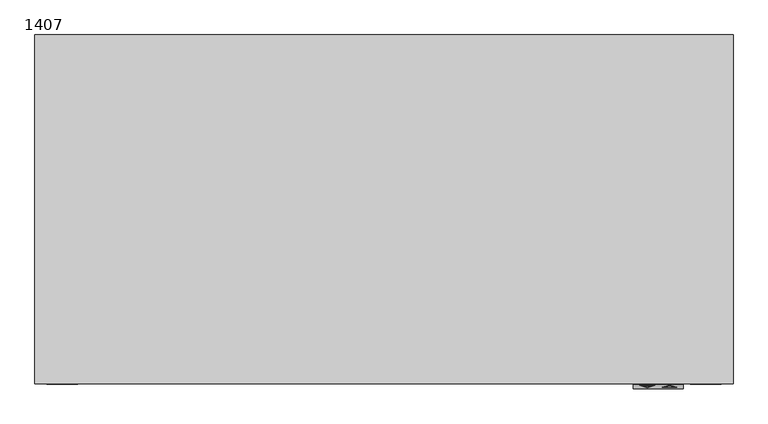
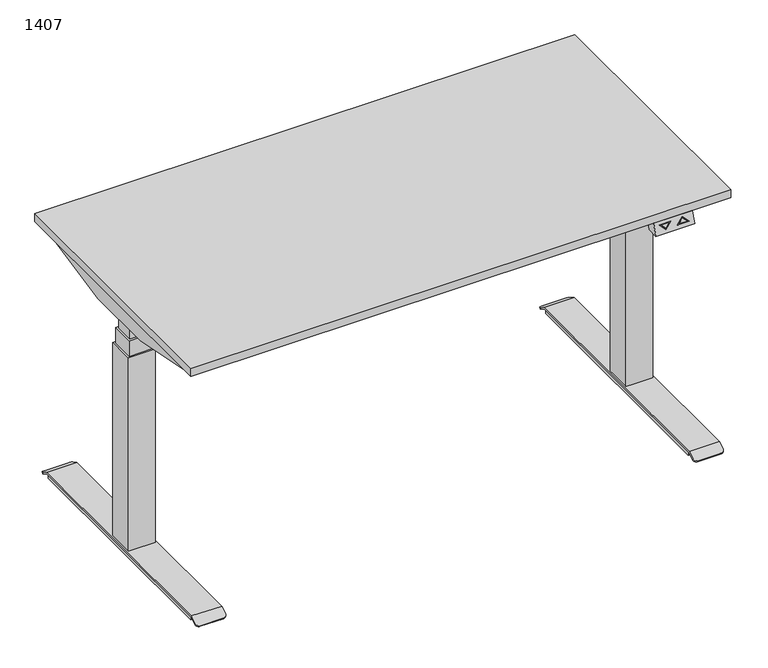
"""IFC4 building model written with IfcOpenShell, lengths in millimetres: furniture geometry, PINTA EQC : 1407."""

from ifc_helpers import new_model, si_unit, point, frame, frame_2d, origin, origin_with_axes, place, context, project, spatial, polyline, circle_curve, trimmed, segment, composite_curve, outline, extrude, faceted_brep, source, transform, mapped, element, save
from ifc_brep_helpers import plane_surface, cylinder_surface, advanced_brep


def furniture_1407_2bd7f04e(model_context):
    return source(origin(), model_context, "Body", "SolidModel", [
        faceted_brep([(500.0, -710.0, 668.0), (500.0, -680.0, 668.0), (600.0, -680.0, 668.0), (600.0, -710.0, 668.0), (500.0, -700.0, 698.0), (600.0, -700.0, 698.0), (600.0, -670.0, 698.0), (500.0, -670.0, 698.0), (512.5, -702.6491106, 690.0526681), (542.5, -702.6491106, 690.0526681), (527.5, -707.3925271, 675.8224186), (587.5, -706.9174824, 677.2475529), (557.5, -706.9174824, 677.2475529), (572.5, -702.1740659, 691.4778023), (527.5, -706.4980999, 678.5057002), (537.6715729, -703.2815662, 688.1553015), (517.3284271, -703.2815662, 688.1553015), (582.6715729, -706.2850268, 679.1449195), (572.5, -703.0684931, 688.7945208), (562.3284271, -706.2850268, 679.1449195), (542.5, -701.7004273, 689.7364403), (512.5, -701.7004273, 689.7364403), (527.5, -706.4438438, 675.5061908), (537.6715729, -702.3328829, 687.8390737), (527.5, -705.5494166, 678.1894724), (517.3284271, -702.3328829, 687.8390737), (557.5, -705.9687991, 676.9313251), (587.5, -705.9687991, 676.9313251), (572.5, -701.2253826, 691.1615746), (572.5, -702.1198098, 688.478293), (582.6715729, -705.3363436, 678.8286917), (562.3284271, -705.3363436, 678.8286917)], [[[0, 1, 2, 3]], [[4, 5, 6, 7]], [[1, 0, 4, 7]], [[3, 2, 6, 5]], [[0, 3, 5, 4], [8, 9, 10], [11, 12, 13]], [[14, 15, 16]], [[17, 18, 19]], [[2, 1, 7, 6]], [[20, 21, 22], [23, 24, 25]], [[26, 27, 28], [29, 30, 31]], [[21, 20, 9, 8]], [[22, 21, 8, 10]], [[20, 22, 10, 9]], [[27, 26, 12, 11]], [[28, 27, 11, 13]], [[26, 28, 13, 12]], [[24, 23, 15, 14]], [[25, 24, 14, 16]], [[23, 25, 16, 15]], [[30, 29, 18, 17]], [[31, 30, 17, 19]], [[29, 31, 19, 18]]]),
        extrude(outline(polyline([(-680.0, -269.7732113), (680.0, -269.7733158), (680.0, -289.7733158), (-680.0, -289.7732113), (-680.0, -269.7732113)])), frame((0.0, 0.0, 658.0), z_axis=(0.0, 0.0, 1.0), x_axis=(1.0, 0.0, 0.0)), (0.0, 0.0, 1.0), 40.0),
        extrude(outline(polyline([(-680.0, -409.7732114), (680.0, -409.7733158), (680.0, -429.7733158), (-680.0, -429.7732114), (-680.0, -409.7732114)])), frame((0.0, 0.0, 658.0), z_axis=(0.0, 0.0, 1.0), x_axis=(1.0, 0.0, 0.0)), (0.0, 0.0, 1.0), 40.0),
        extrude(outline(polyline([(-700.0, -700.0), (-700.0, 0.0), (700.0, 0.0), (700.0, -700.0), (-700.0, -700.0)])), frame((0.0, 0.0, 698.0), z_axis=(0.0, 0.0, 1.0), x_axis=(1.0, 0.0, 0.0)), (0.0, 0.0, 1.0), 22.0),
        advanced_brep(
        [(606.9772339, -670.0, 6.0), (606.9772339, -670.0, 16.0), (606.9772339, -30.0, 16.0), (606.9772339, -30.0, 6.0), (683.0227661, -30.0, 16.0), (683.0227661, -30.0, 6.0), (683.0227661, -670.0, 16.0), (683.0227661, -670.0, 6.0), (606.0, -25.0, 20.0), (606.0, -6.9800481, 9.908827), (606.0, -8.9344616, 6.4188029), (606.0, -26.0437422, 16.0), (606.0, -673.9562578, 16.0), (606.0, -691.0655384, 6.4188029), (606.0, -693.0199519, 9.908827), (606.0, -675.0, 20.0), (684.0, -26.0437422, 16.0), (684.0, -8.9344616, 6.4188029), (684.0, -6.9800481, 9.908827), (684.0, -25.0, 20.0), (684.0, -675.0, 20.0), (684.0, -693.0199519, 9.908827), (684.0, -691.0655384, 6.4188029), (684.0, -673.9562578, 16.0), (614.0, -700.0, 6.0), (676.0, -700.0, 6.0), (614.0, -698.0455865, 2.5099759), (676.0, -698.0455865, 2.5099759), (614.0, -1.9544135, 2.5099759), (676.0, -1.9544135, 2.5099759), (614.0, 0.0, 6.0), (676.0, 0.0, 6.0)],
        [
            (0, 1),
            (1, 2),
            (2, 3),
            (3, 0),
            (2, 4),
            (4, 5),
            (5, 3),
            (4, 6),
            (6, 7),
            (7, 5),
            (6, 1),
            (0, 7),
            (8, 9),
            (9, 10),
            (10, 11),
            (11, 12),
            (12, 13),
            (13, 14),
            (14, 15),
            (15, 8),
            (16, 17),
            (17, 18),
            (18, 19),
            (19, 20),
            (20, 21),
            (21, 22),
            (22, 23),
            (23, 16),
            (15, 20),
            (19, 8),
            (11, 16),
            (23, 12),
            (14, 24, circle_curve(frame((614.0, -693.0199519, 9.908827), z_axis=(0.0, -0.4886033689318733, 0.8725060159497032), x_axis=(0.0, 0.8725060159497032, 0.4886033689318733)), 8.0)),
            (24, 25),
            (25, 21, circle_curve(frame((676.0, -693.0199519, 9.908827), z_axis=(0.0, -0.4886033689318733, 0.8725060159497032), x_axis=(0.0, 0.8725060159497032, 0.4886033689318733)), 8.0)),
            (24, 26),
            (26, 27),
            (27, 25),
            (22, 27, circle_curve(frame((676.0, -691.0655384, 6.4188029), z_axis=(0.0, 0.4886033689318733, -0.8725060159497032), x_axis=(0.0, 0.8725060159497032, 0.4886033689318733)), 8.0)),
            (26, 13, circle_curve(frame((614.0, -691.0655384, 6.4188029), z_axis=(0.0, 0.4886033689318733, -0.8725060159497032), x_axis=(0.0, 0.8725060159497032, 0.4886033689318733)), 8.0)),
            (10, 28, circle_curve(frame((614.0, -8.9344616, 6.4188029), z_axis=(0.0, -0.4886033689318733, -0.8725060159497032), x_axis=(0.0, -0.8725060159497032, 0.4886033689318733)), 8.0)),
            (28, 29),
            (29, 17, circle_curve(frame((676.0, -8.9344616, 6.4188029), z_axis=(0.0, -0.4886033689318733, -0.8725060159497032), x_axis=(0.0, -0.8725060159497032, 0.4886033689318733)), 8.0)),
            (28, 30),
            (30, 31),
            (31, 29),
            (18, 31, circle_curve(frame((676.0, -6.9800481, 9.908827), z_axis=(0.0, 0.4886033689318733, 0.8725060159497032), x_axis=(0.0, -0.8725060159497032, 0.4886033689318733)), 8.0)),
            (30, 9, circle_curve(frame((614.0, -6.9800481, 9.908827), z_axis=(0.0, 0.4886033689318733, 0.8725060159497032), x_axis=(0.0, -0.8725060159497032, 0.4886033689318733)), 8.0)),
        ],
        [
            plane_surface(frame((606.9772339, -670.0, 16.0), z_axis=(-1.0, 0.0, 0.0), x_axis=(0.0, 0.0, -1.0))),
            plane_surface(frame((606.9772339, -30.0, 16.0), z_axis=(0.0, 1.0, 0.0), x_axis=(0.0, 0.0, -1.0))),
            plane_surface(frame((683.0227661, -30.0, 16.0), z_axis=(1.0, 0.0, 0.0), x_axis=(0.0, 0.0, -1.0))),
            plane_surface(frame((683.0227661, -670.0, 16.0), z_axis=(0.0, -1.0, 0.0), x_axis=(0.0, 0.0, -1.0))),
            plane_surface(frame((606.9772339, -673.4188232, 6.0), z_axis=(0.0, 0.0, -1.0), x_axis=(0.0, -1.0, 0.0))),
            plane_surface(frame((606.0, -350.0, 20.0), z_axis=(-1.0, 0.0, 0.0), x_axis=(0.0, -1.0, 0.0))),
            plane_surface(frame((684.0, -350.0, 20.0), z_axis=(1.0, 0.0, 0.0), x_axis=(0.0, 1.0, 0.0))),
            plane_surface(frame((606.0, -25.0, 20.0), z_axis=(0.0, 0.0, 1.0), x_axis=(1.0, 0.0, 0.0))),
            plane_surface(frame((606.0, -673.9562578, 16.0), z_axis=(0.0, 0.0, -1.0), x_axis=(1.0, 0.0, 0.0))),
            plane_surface(frame((606.0, -675.0, 20.0), z_axis=(0.0, -0.4886033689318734, 0.8725060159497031), x_axis=(1.0, 0.0, 0.0))),
            plane_surface(frame((606.0, -700.0, 6.0), z_axis=(0.0, -0.872506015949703, -0.4886033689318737), x_axis=(1.0, 0.0, 0.0))),
            plane_surface(frame((606.0, -698.0455865, 2.5099759), z_axis=(0.0, 0.4886033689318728, -0.8725060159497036), x_axis=(1.0, 0.0, 0.0))),
            plane_surface(frame((606.0, -26.0437422, 16.0), z_axis=(0.0, -0.4886033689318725, -0.8725060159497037), x_axis=(1.0, 0.0, 0.0))),
            plane_surface(frame((606.0, -1.9544135, 2.5099759), z_axis=(0.0, 0.8725060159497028, -0.48860336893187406), x_axis=(1.0, 0.0, 0.0))),
            plane_surface(frame((606.0, 0.0, 6.0), z_axis=(0.0, 0.48860336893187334, 0.8725060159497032), x_axis=(1.0, 0.0, 0.0))),
            cylinder_surface(frame((614.0, -693.0199519, 9.908827), z_axis=(0.0, -0.4886033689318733, 0.8725060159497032), x_axis=(0.0, 0.8725060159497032, 0.4886033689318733)), 8.0),
            cylinder_surface(frame((676.0, -693.0199519, 9.908827), z_axis=(0.0, -0.4886033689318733, 0.8725060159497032), x_axis=(0.0, 0.8725060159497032, 0.4886033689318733)), 8.0),
            cylinder_surface(frame((614.0, -6.9800481, 9.908827), z_axis=(0.0, 0.4886033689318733, 0.8725060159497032), x_axis=(0.0, -0.8725060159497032, 0.4886033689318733)), 8.0),
            cylinder_surface(frame((676.0, -6.9800481, 9.908827), z_axis=(0.0, 0.4886033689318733, 0.8725060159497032), x_axis=(0.0, -0.8725060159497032, 0.4886033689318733)), 8.0),
        ],
        [
            (0, [[1, 2, 3, 4]]),
            (1, [[-3, 5, 6, 7]]),
            (2, [[-6, 8, 9, 10]]),
            (3, [[-9, 11, -1, 12]]),
            (4, [[-4, -7, -10, -12]]),
            (5, [[13, 14, 15, 16, 17, 18, 19, 20]]),
            (6, [[21, 22, 23, 24, 25, 26, 27, 28]]),
            (7, [[29, -24, 30, -20]]),
            (8, [[31, -28, 32, -16], [-11, -8, -5, -2]]),
            (9, [[-19, 33, 34, 35, -25, -29]]),
            (10, [[36, 37, 38, -34]]),
            (11, [[-27, 39, -37, 40, -17, -32]]),
            (12, [[-15, 41, 42, 43, -21, -31]]),
            (13, [[44, 45, 46, -42]]),
            (14, [[-23, 47, -45, 48, -13, -30]]),
            (15, [[-40, -36, -33, -18]]),
            (16, [[-35, -38, -39, -26]]),
            (17, [[-48, -44, -41, -14]]),
            (18, [[-43, -46, -47, -22]]),
        ],
    ),
        faceted_brep([(479.4551307, -410.0, 698.0), (662.9996948, -410.0, 698.0), (662.9996948, -650.0, 698.0), (679.4551307, -650.0, 698.0), (683.0, -650.0, 698.0), (683.0, -50.0, 698.0), (679.4551307, -50.0, 698.0), (662.9996948, -50.0, 698.0), (662.9996948, -290.0, 698.0), (479.4551307, -290.0, 698.0), (479.4551307, -410.0, 635.2327881), (479.4551307, -290.0, 635.2327881), (679.4551307, -290.0, 635.2327881), (679.4551307, -253.8252348, 635.2327881), (683.0, -253.8252348, 635.2327881), (683.0, -446.1747652, 635.2327881), (679.4551307, -446.1747652, 635.2327881), (679.4551307, -410.0, 635.2327881), (662.9996948, -290.0, 694.9093018), (679.4551307, -290.0, 694.9093018), (679.4551307, -410.0, 694.9093018), (662.9996948, -410.0, 694.9093018), (679.4551307, -650.0, 694.9093018), (662.9996948, -650.0, 694.9093018), (679.4551307, -50.0, 694.9093018), (662.9996948, -50.0, 694.9093018), (679.4551307, -51.1249222, 694.9093018), (679.4551307, -648.8750778, 694.9093018), (679.4551307, -58.5505036, 674.5076845), (679.4551307, -641.4494964, 674.5076845), (683.0, -58.5505036, 674.5076845), (683.0, -641.4494964, 674.5076845)], [[[0, 1, 2, 3, 4, 5, 6, 7, 8, 9]], [[10, 11, 12, 13, 14, 15, 16, 17]], [[9, 11, 10, 0]], [[11, 9, 8, 18, 19, 12]], [[17, 20, 21, 1, 0, 10]], [[22, 3, 2, 23]], [[24, 25, 7, 6]], [[24, 26, 19, 18, 25]], [[23, 21, 20, 27, 22]], [[2, 1, 21, 23]], [[25, 18, 8, 7]], [[13, 12, 19, 26, 28]], [[29, 27, 20, 17, 16]], [[15, 14, 30, 5, 4, 31]], [[16, 15, 31, 29]], [[22, 27, 3]], [[6, 26, 24]], [[4, 3, 27, 29, 31]], [[28, 30, 14, 13]], [[30, 28, 26, 6, 5]]]),
        extrude(outline(composite_curve([segment(trimmed(circle_curve(frame_2d((645.0, -655.0)), 25.0), [point((670.0, -655.0))], [point((620.0, -655.0))], False, "CARTESIAN"), True, "CONTINUOUS"), segment(trimmed(circle_curve(frame_2d((645.0, -655.0)), 25.0), [point((620.0, -655.0))], [point((670.0, -655.0))], False, "CARTESIAN"), True, "CONTINUOUS")], self_intersect=False)), origin_with_axes(), (0.0, 0.0, 1.0), 6.0),
        extrude(outline(composite_curve([segment(trimmed(circle_curve(frame_2d((645.0, -45.0)), 25.0), [point((670.0, -45.0))], [point((620.0, -45.0))], False, "CARTESIAN"), True, "CONTINUOUS"), segment(trimmed(circle_curve(frame_2d((645.0, -45.0)), 25.0), [point((620.0, -45.0))], [point((670.0, -45.0))], False, "CARTESIAN"), True, "CONTINUOUS")], self_intersect=False)), origin_with_axes(), (0.0, 0.0, 1.0), 6.0),
        faceted_brep([(610.0, -315.0, 550.0), (610.0, -384.9621325, 550.0), (680.0, -384.9621325, 550.0), (680.0, -315.0, 550.0), (675.0, -320.0, 550.0), (675.0, -379.9621325, 550.0), (615.0, -379.9621325, 550.0), (615.0, -320.0, 550.0), (610.0, -315.0, 20.0), (680.0, -315.0, 20.0), (680.0, -384.9621325, 20.0), (610.0, -384.9621325, 20.0), (615.0, -320.0, 592.616394), (615.0, -379.9621325, 592.616394), (675.0, -379.9621325, 592.616394), (675.0, -320.0, 592.616394), (670.0, -325.0, 592.616394), (670.0, -374.9621325, 592.616394), (620.0, -374.9621325, 592.616394), (620.0, -325.0, 592.616394), (620.0, -325.0, 635.2327881), (620.0, -374.9621325, 635.2327881), (670.0, -374.9621325, 635.2327881), (670.0, -325.0, 635.2327881)], [[[0, 1, 2, 3], [4, 5, 6, 7]], [[8, 9, 10, 11]], [[3, 9, 8, 0]], [[2, 10, 9, 3]], [[1, 11, 10, 2]], [[0, 8, 11, 1]], [[12, 13, 14, 15], [16, 17, 18, 19]], [[15, 4, 7, 12]], [[14, 5, 4, 15]], [[13, 6, 5, 14]], [[12, 7, 6, 13]], [[20, 21, 22, 23]], [[23, 16, 19, 20]], [[22, 17, 16, 23]], [[21, 18, 17, 22]], [[20, 19, 18, 21]]]),
        advanced_brep(
        [(-606.9772339, -670.0, 6.0), (-606.9772339, -30.0, 6.0), (-606.9772339, -30.0, 16.0), (-606.9772339, -670.0, 16.0), (-683.0227661, -30.0, 6.0), (-683.0227661, -30.0, 16.0), (-683.0227661, -670.0, 6.0), (-683.0227661, -670.0, 16.0), (-606.0, -25.0, 20.0), (-606.0, -675.0, 20.0), (-606.0, -693.0199519, 9.908827), (-606.0, -691.0655384, 6.4188029), (-606.0, -673.9562578, 16.0), (-606.0, -26.0437422, 16.0), (-606.0, -8.9344616, 6.4188029), (-606.0, -6.9800481, 9.908827), (-684.0, -26.0437422, 16.0), (-684.0, -673.9562578, 16.0), (-684.0, -691.0655384, 6.4188029), (-684.0, -693.0199519, 9.908827), (-684.0, -675.0, 20.0), (-684.0, -25.0, 20.0), (-684.0, -6.9800481, 9.908827), (-684.0, -8.9344616, 6.4188029), (-676.0, -700.0, 6.0), (-614.0, -700.0, 6.0), (-676.0, -698.0455865, 2.5099759), (-614.0, -698.0455865, 2.5099759), (-676.0, -1.9544135, 2.5099759), (-614.0, -1.9544135, 2.5099759), (-676.0, 0.0, 6.0), (-614.0, 0.0, 6.0)],
        [
            (0, 1),
            (1, 2),
            (2, 3),
            (3, 0),
            (1, 4),
            (4, 5),
            (5, 2),
            (4, 6),
            (6, 7),
            (7, 5),
            (6, 0),
            (3, 7),
            (8, 9),
            (9, 10),
            (10, 11),
            (11, 12),
            (12, 13),
            (13, 14),
            (14, 15),
            (15, 8),
            (16, 17),
            (17, 18),
            (18, 19),
            (19, 20),
            (20, 21),
            (21, 22),
            (22, 23),
            (23, 16),
            (8, 21),
            (20, 9),
            (12, 17),
            (16, 13),
            (19, 24, circle_curve(frame((-676.0, -693.0199519, 9.908827), z_axis=(0.0, -0.4886033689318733, 0.8725060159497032), x_axis=(0.0, 0.8725060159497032, 0.4886033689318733)), 8.0)),
            (24, 25),
            (25, 10, circle_curve(frame((-614.0, -693.0199519, 9.908827), z_axis=(0.0, -0.4886033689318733, 0.8725060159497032), x_axis=(0.0, 0.8725060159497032, 0.4886033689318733)), 8.0)),
            (24, 26),
            (26, 27),
            (27, 25),
            (11, 27, circle_curve(frame((-614.0, -691.0655384, 6.4188029), z_axis=(0.0, 0.4886033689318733, -0.8725060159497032), x_axis=(0.0, 0.8725060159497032, 0.4886033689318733)), 8.0)),
            (26, 18, circle_curve(frame((-676.0, -691.0655384, 6.4188029), z_axis=(0.0, 0.4886033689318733, -0.8725060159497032), x_axis=(0.0, 0.8725060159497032, 0.4886033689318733)), 8.0)),
            (23, 28, circle_curve(frame((-676.0, -8.9344616, 6.4188029), z_axis=(0.0, -0.4886033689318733, -0.8725060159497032), x_axis=(0.0, -0.8725060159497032, 0.4886033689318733)), 8.0)),
            (28, 29),
            (29, 14, circle_curve(frame((-614.0, -8.9344616, 6.4188029), z_axis=(0.0, -0.4886033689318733, -0.8725060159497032), x_axis=(0.0, -0.8725060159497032, 0.4886033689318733)), 8.0)),
            (28, 30),
            (30, 31),
            (31, 29),
            (15, 31, circle_curve(frame((-614.0, -6.9800481, 9.908827), z_axis=(0.0, 0.4886033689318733, 0.8725060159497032), x_axis=(0.0, -0.8725060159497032, 0.4886033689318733)), 8.0)),
            (30, 22, circle_curve(frame((-676.0, -6.9800481, 9.908827), z_axis=(0.0, 0.4886033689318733, 0.8725060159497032), x_axis=(0.0, -0.8725060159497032, 0.4886033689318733)), 8.0)),
        ],
        [
            plane_surface(frame((-606.9772339, -670.0, 16.0), z_axis=(1.0, 0.0, 0.0), x_axis=(0.0, 0.0, -1.0))),
            plane_surface(frame((-606.9772339, -30.0, 16.0), z_axis=(0.0, 1.0, 0.0), x_axis=(0.0, 0.0, -1.0))),
            plane_surface(frame((-683.0227661, -30.0, 16.0), z_axis=(-1.0, 0.0, 0.0), x_axis=(0.0, 0.0, -1.0))),
            plane_surface(frame((-683.0227661, -670.0, 16.0), z_axis=(0.0, -1.0, 0.0), x_axis=(0.0, 0.0, -1.0))),
            plane_surface(frame((-606.9772339, -673.4188232, 6.0), z_axis=(0.0, 0.0, -1.0), x_axis=(0.0, -1.0, 0.0))),
            plane_surface(frame((-606.0, -350.0, 20.0), z_axis=(1.0, 0.0, 0.0), x_axis=(0.0, -1.0, 0.0))),
            plane_surface(frame((-684.0, -350.0, 20.0), z_axis=(-1.0, 0.0, 0.0), x_axis=(0.0, 1.0, 0.0))),
            plane_surface(frame((-606.0, -25.0, 20.0), z_axis=(0.0, 0.0, 1.0), x_axis=(-1.0, 0.0, 0.0))),
            plane_surface(frame((-606.0, -673.9562578, 16.0), z_axis=(0.0, 0.0, -1.0), x_axis=(-1.0, 0.0, 0.0))),
            plane_surface(frame((-606.0, -675.0, 20.0), z_axis=(0.0, -0.4886033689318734, 0.8725060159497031), x_axis=(-1.0, 0.0, 0.0))),
            plane_surface(frame((-606.0, -700.0, 6.0), z_axis=(0.0, -0.872506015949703, -0.4886033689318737), x_axis=(-1.0, 0.0, 0.0))),
            plane_surface(frame((-606.0, -698.0455865, 2.5099759), z_axis=(0.0, 0.4886033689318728, -0.8725060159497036), x_axis=(-1.0, 0.0, 0.0))),
            plane_surface(frame((-606.0, -26.0437422, 16.0), z_axis=(0.0, -0.4886033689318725, -0.8725060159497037), x_axis=(-1.0, 0.0, 0.0))),
            plane_surface(frame((-606.0, -1.9544135, 2.5099759), z_axis=(0.0, 0.8725060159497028, -0.48860336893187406), x_axis=(-1.0, 0.0, 0.0))),
            plane_surface(frame((-606.0, 0.0, 6.0), z_axis=(0.0, 0.48860336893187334, 0.8725060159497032), x_axis=(-1.0, 0.0, 0.0))),
            cylinder_surface(frame((-614.0, -693.0199519, 9.908827), z_axis=(0.0, -0.4886033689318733, 0.8725060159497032), x_axis=(0.0, 0.8725060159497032, 0.4886033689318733)), 8.0),
            cylinder_surface(frame((-676.0, -693.0199519, 9.908827), z_axis=(0.0, -0.4886033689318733, 0.8725060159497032), x_axis=(0.0, 0.8725060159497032, 0.4886033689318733)), 8.0),
            cylinder_surface(frame((-614.0, -6.9800481, 9.908827), z_axis=(0.0, 0.4886033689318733, 0.8725060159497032), x_axis=(0.0, -0.8725060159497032, 0.4886033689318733)), 8.0),
            cylinder_surface(frame((-676.0, -6.9800481, 9.908827), z_axis=(0.0, 0.4886033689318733, 0.8725060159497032), x_axis=(0.0, -0.8725060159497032, 0.4886033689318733)), 8.0),
        ],
        [
            (0, [[1, 2, 3, 4]]),
            (1, [[5, 6, 7, -2]]),
            (2, [[8, 9, 10, -6]]),
            (3, [[11, -4, 12, -9]]),
            (4, [[-11, -8, -5, -1]]),
            (5, [[13, 14, 15, 16, 17, 18, 19, 20]]),
            (6, [[21, 22, 23, 24, 25, 26, 27, 28]]),
            (7, [[-13, 29, -25, 30]]),
            (8, [[-17, 31, -21, 32], [-3, -7, -10, -12]]),
            (9, [[-30, -24, 33, 34, 35, -14]]),
            (10, [[-34, 36, 37, 38]]),
            (11, [[-31, -16, 39, -37, 40, -22]]),
            (12, [[-32, -28, 41, 42, 43, -18]]),
            (13, [[-42, 44, 45, 46]]),
            (14, [[-29, -20, 47, -45, 48, -26]]),
            (15, [[-15, -35, -38, -39]]),
            (16, [[-23, -40, -36, -33]]),
            (17, [[-19, -43, -46, -47]]),
            (18, [[-27, -48, -44, -41]]),
        ],
    ),
        faceted_brep([(-479.4551307, -410.0, 698.0), (-479.4551307, -290.0, 698.0), (-662.9996948, -290.0, 698.0), (-662.9996948, -50.0, 698.0), (-679.4551307, -50.0, 698.0), (-683.0, -50.0, 698.0), (-683.0, -650.0, 698.0), (-679.4551307, -650.0, 698.0), (-662.9996948, -650.0, 698.0), (-662.9996948, -410.0, 698.0), (-479.4551307, -410.0, 635.2327881), (-679.4551307, -410.0, 635.2327881), (-679.4551307, -446.1747652, 635.2327881), (-683.0, -446.1747652, 635.2327881), (-683.0, -253.8252348, 635.2327881), (-679.4551307, -253.8252348, 635.2327881), (-679.4551307, -290.0, 635.2327881), (-479.4551307, -290.0, 635.2327881), (-679.4551307, -290.0, 694.9093018), (-662.9996948, -290.0, 694.9093018), (-662.9996948, -410.0, 694.9093018), (-679.4551307, -410.0, 694.9093018), (-679.4551307, -650.0, 694.9093018), (-662.9996948, -650.0, 694.9093018), (-679.4551307, -50.0, 694.9093018), (-662.9996948, -50.0, 694.9093018), (-679.4551307, -648.8750778, 694.9093018), (-679.4551307, -51.1249222, 694.9093018), (-679.4551307, -641.4494964, 674.5076845), (-679.4551307, -58.5505036, 674.5076845), (-683.0, -641.4494964, 674.5076845), (-683.0, -58.5505036, 674.5076845)], [[[0, 1, 2, 3, 4, 5, 6, 7, 8, 9]], [[10, 11, 12, 13, 14, 15, 16, 17]], [[1, 0, 10, 17]], [[17, 16, 18, 19, 2, 1]], [[11, 10, 0, 9, 20, 21]], [[22, 23, 8, 7]], [[24, 4, 3, 25]], [[23, 22, 26, 21, 20]], [[24, 25, 19, 18, 27]], [[8, 23, 20, 9]], [[25, 3, 2, 19]], [[28, 12, 11, 21, 26]], [[15, 29, 27, 18, 16]], [[13, 30, 6, 5, 31, 14]], [[12, 28, 30, 13]], [[22, 7, 26]], [[4, 24, 27]], [[6, 30, 28, 26, 7]], [[29, 15, 14, 31]], [[31, 5, 4, 27, 29]]]),
        extrude(outline(composite_curve([segment(trimmed(circle_curve(frame_2d((-645.0, -655.0)), 25.0), [point((-670.0, -655.0))], [point((-620.0, -655.0))], False, "CARTESIAN"), True, "CONTINUOUS"), segment(trimmed(circle_curve(frame_2d((-645.0, -655.0)), 25.0), [point((-620.0, -655.0))], [point((-670.0, -655.0))], False, "CARTESIAN"), True, "CONTINUOUS")], self_intersect=False)), origin_with_axes(), (0.0, 0.0, 1.0), 6.0),
        extrude(outline(composite_curve([segment(trimmed(circle_curve(frame_2d((-645.0, -45.0)), 25.0), [point((-670.0, -45.0))], [point((-620.0, -45.0))], False, "CARTESIAN"), True, "CONTINUOUS"), segment(trimmed(circle_curve(frame_2d((-645.0, -45.0)), 25.0), [point((-620.0, -45.0))], [point((-670.0, -45.0))], False, "CARTESIAN"), True, "CONTINUOUS")], self_intersect=False)), origin_with_axes(), (0.0, 0.0, 1.0), 6.0),
        faceted_brep([(-610.0, -315.0, 550.0), (-680.0, -315.0, 550.0), (-680.0, -384.9621325, 550.0), (-610.0, -384.9621325, 550.0), (-675.0, -320.0, 550.0), (-615.0, -320.0, 550.0), (-615.0, -379.9621325, 550.0), (-675.0, -379.9621325, 550.0), (-610.0, -315.0, 20.0), (-610.0, -384.9621325, 20.0), (-680.0, -384.9621325, 20.0), (-680.0, -315.0, 20.0), (-615.0, -320.0, 592.616394), (-675.0, -320.0, 592.616394), (-675.0, -379.9621325, 592.616394), (-615.0, -379.9621325, 592.616394), (-670.0, -325.0, 592.616394), (-620.0, -325.0, 592.616394), (-620.0, -374.9621325, 592.616394), (-670.0, -374.9621325, 592.616394), (-620.0, -325.0, 635.2327881), (-670.0, -325.0, 635.2327881), (-670.0, -374.9621325, 635.2327881), (-620.0, -374.9621325, 635.2327881)], [[[0, 1, 2, 3], [4, 5, 6, 7]], [[8, 9, 10, 11]], [[1, 0, 8, 11]], [[2, 1, 11, 10]], [[3, 2, 10, 9]], [[0, 3, 9, 8]], [[12, 13, 14, 15], [16, 17, 18, 19]], [[13, 12, 5, 4]], [[14, 13, 4, 7]], [[15, 14, 7, 6]], [[12, 15, 6, 5]], [[20, 21, 22, 23]], [[21, 20, 17, 16]], [[22, 21, 16, 19]], [[23, 22, 19, 18]], [[20, 23, 18, 17]]]),
    ])


if __name__ == "__main__":
    model = new_model("IFC4")
    model_context = context("Model", 3, world=origin())
    ifc_project = project(units=[si_unit("LENGTHUNIT", "METRE", prefix="MILLI")], contexts=[model_context])
    site = spatial("IfcSite", under=ifc_project)
    building = spatial("IfcBuilding", under=site)
    placement = place(None, origin())
    furniture_1407_shape = furniture_1407_2bd7f04e(model_context)
    element("IfcFurniture", 1, ObjectType="PINTA EQC : 1407", at=placement, inside=building, context=model_context, shape_type="MappedRepresentation", body=[
        mapped(furniture_1407_shape, transform((0.0, 0.0, 0.0), x_axis=(1.0, 0.0, 0.0), y_axis=(0.0, 1.0, 0.0), z_axis=(0.0, 0.0, 1.0))),
    ])
    save(model, "model.ifc")
